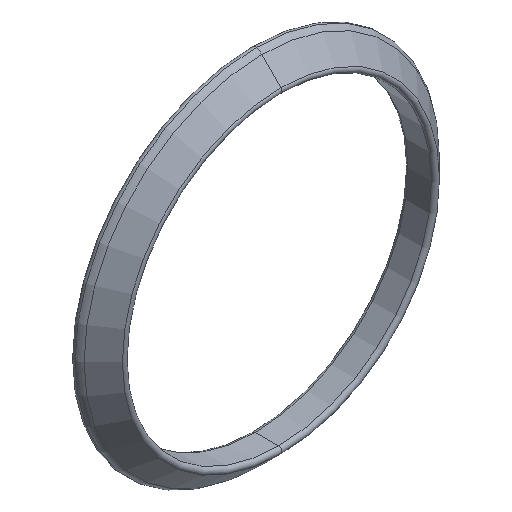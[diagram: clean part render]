
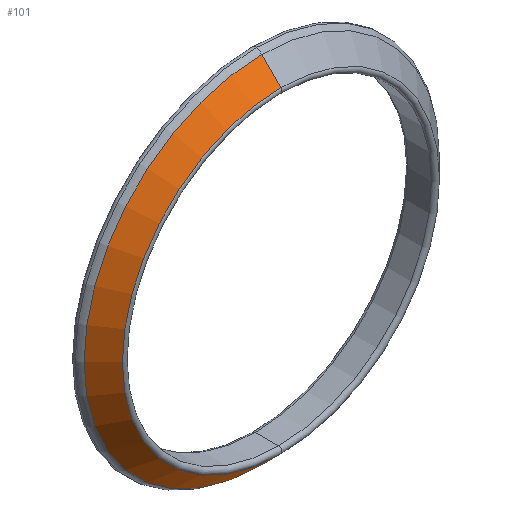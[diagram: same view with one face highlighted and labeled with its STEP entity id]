
A CAD part, isometric view. The second image highlights one B-rep face of the part: STEP entity #101.
In plain terms, the highlighted conical face has half-angle 45 degrees and reference radius 20.765 mm.
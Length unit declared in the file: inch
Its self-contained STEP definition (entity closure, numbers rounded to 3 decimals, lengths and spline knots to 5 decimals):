
#1 = VECTOR ( 'NONE', #43, 39.37008 ) ;
#9 = AXIS2_PLACEMENT_3D ( 'NONE', #263, #365, #66 ) ;
#16 = VERTEX_POINT ( 'NONE', #228 ) ;
#30 = CONICAL_SURFACE ( 'NONE', #9, 0.8175, 0.785 ) ;
#36 = CARTESIAN_POINT ( 'NONE',  ( 0., 0.13, -0.8175 ) ) ;
#43 = DIRECTION ( 'NONE',  ( 0., 0.707, 0.707 ) ) ;
#65 = CARTESIAN_POINT ( 'NONE',  ( 0., 0.11169, 0. ) ) ;
#66 = DIRECTION ( 'NONE',  ( 0., 0., 1. ) ) ;
#67 = DIRECTION ( 'NONE',  ( 0., 0., -1. ) ) ;
#71 = CIRCLE ( 'NONE', #350, 0.79919 ) ;
#79 = CARTESIAN_POINT ( 'NONE',  ( 0., 0.02561, 0.71311 ) ) ;
#101 = ADVANCED_FACE ( 'NONE', ( #131 ), #30, .T. ) ;
#121 = CARTESIAN_POINT ( 'NONE',  ( 0., 0.11169, -0.79919 ) ) ;
#127 = VERTEX_POINT ( 'NONE', #79 ) ;
#131 = FACE_OUTER_BOUND ( 'NONE', #351, .T. ) ;
#155 = VERTEX_POINT ( 'NONE', #121 ) ;
#214 = VECTOR ( 'NONE', #224, 39.37008 ) ;
#215 = ORIENTED_EDGE ( 'NONE', *, *, #389, .F. ) ;
#224 = DIRECTION ( 'NONE',  ( 0., 0.707, -0.707 ) ) ;
#228 = CARTESIAN_POINT ( 'NONE',  ( 0., 0.11169, 0.79919 ) ) ;
#246 = EDGE_CURVE ( 'NONE', #127, #16, #422, .T. ) ;
#258 = ORIENTED_EDGE ( 'NONE', *, *, #370, .T. ) ;
#259 = DIRECTION ( 'NONE',  ( 0., -1., 0. ) ) ;
#263 = CARTESIAN_POINT ( 'NONE',  ( 0., 0.13, 0. ) ) ;
#271 = AXIS2_PLACEMENT_3D ( 'NONE', #395, #290, #67 ) ;
#290 = DIRECTION ( 'NONE',  ( 0., 1., 0. ) ) ;
#291 = CIRCLE ( 'NONE', #271, 0.71311 ) ;
#313 = CARTESIAN_POINT ( 'NONE',  ( 0., 0.13, 0.8175 ) ) ;
#319 = ORIENTED_EDGE ( 'NONE', *, *, #401, .T. ) ;
#332 = LINE ( 'NONE', #36, #214 ) ;
#333 = CARTESIAN_POINT ( 'NONE',  ( 0., 0.02561, -0.71311 ) ) ;
#350 = AXIS2_PLACEMENT_3D ( 'NONE', #65, #259, #425 ) ;
#351 = EDGE_LOOP ( 'NONE', ( #215, #258, #361, #319 ) ) ;
#361 = ORIENTED_EDGE ( 'NONE', *, *, #246, .T. ) ;
#365 = DIRECTION ( 'NONE',  ( 0., 1., 0. ) ) ;
#370 = EDGE_CURVE ( 'NONE', #428, #127, #291, .T. ) ;
#389 = EDGE_CURVE ( 'NONE', #428, #155, #332, .T. ) ;
#395 = CARTESIAN_POINT ( 'NONE',  ( 0., 0.02561, 0. ) ) ;
#401 = EDGE_CURVE ( 'NONE', #16, #155, #71, .T. ) ;
#422 = LINE ( 'NONE', #313, #1 ) ;
#425 = DIRECTION ( 'NONE',  ( 0., 0., -1. ) ) ;
#428 = VERTEX_POINT ( 'NONE', #333 ) ;
